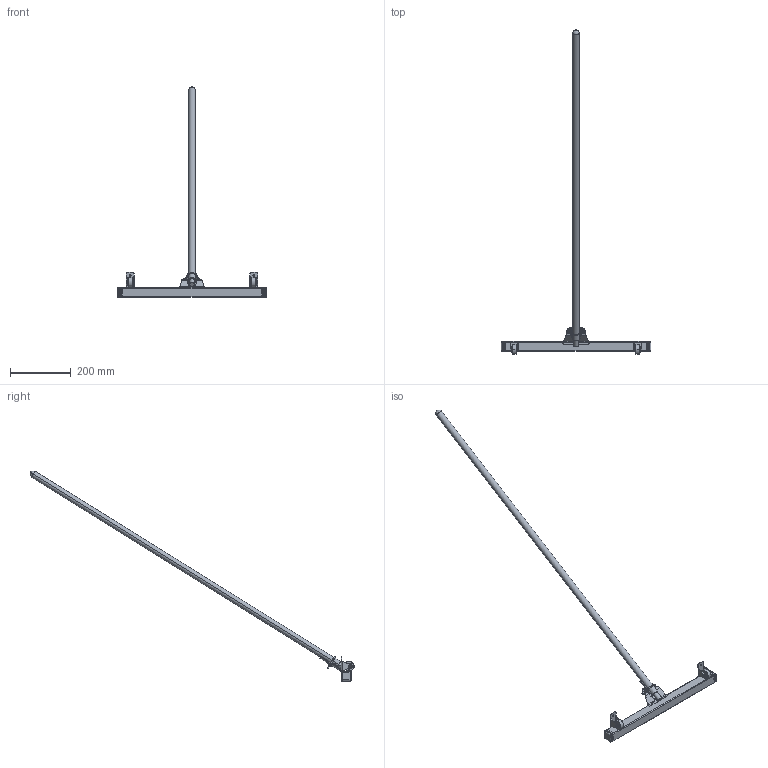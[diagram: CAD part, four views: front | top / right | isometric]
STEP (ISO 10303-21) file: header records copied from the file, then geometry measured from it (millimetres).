
FILE_DESCRIPTION (( 'STEP AP203' ), '1' );
FILE_NAME ('SS1800.STEP', '2018-08-20T18:42:26', ( '' ), ( '' ), 'SwSTEP 2.0', 'SolidWorks 2015', '' );
FILE_SCHEMA (( 'CONFIG_CONTROL_DESIGN' ));
Length unit declared in the file: inch
Products named in the file (1): SS1800
Bounding box: 492.12 x 1065.61 x 691.24 mm (x, y, z)
Volume: 616368 mm3; surface area: 242912.7 mm2
Topology: 8 solids, 8 shells, 729 faces, 1937 edges, 1227 vertices
Faces by surface type: plane 305, cylinder 280, torus 66, bspline 62, sphere 12, cone 4
Entity records: 24436 total; most frequent: CARTESIAN_POINT 7262, ORIENTED_EDGE 3830, DIRECTION 3387, EDGE_CURVE 1915, AXIS2_PLACEMENT_3D 1238, VERTEX_POINT 1225, VECTOR 911, LINE 911
